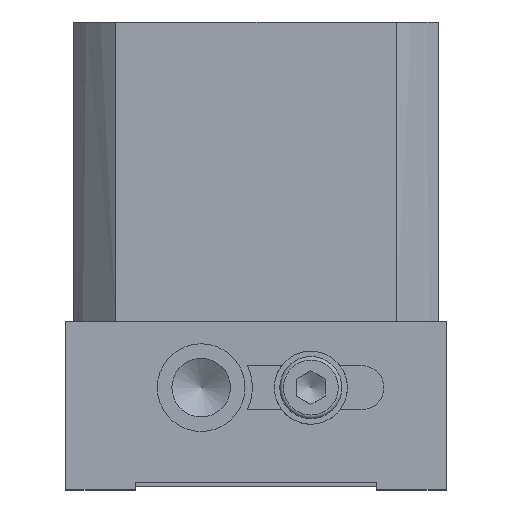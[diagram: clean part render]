
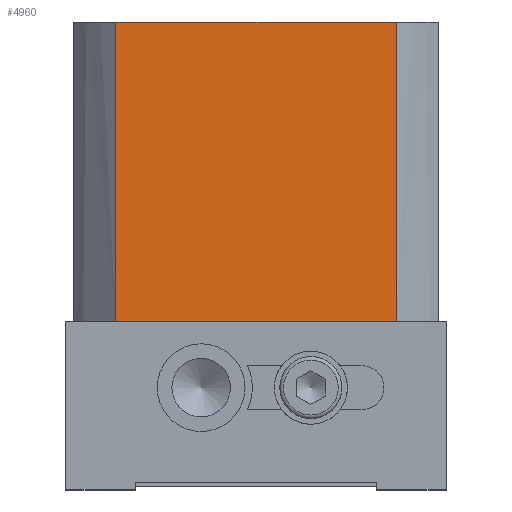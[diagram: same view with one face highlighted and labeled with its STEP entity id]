
A CAD part, left-side view. The second image highlights one B-rep face of the part: STEP entity #4960.
In plain terms, the highlighted planar face has unit normal (-1, 0, 0).
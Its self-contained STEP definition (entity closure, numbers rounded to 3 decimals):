
#3871=CARTESIAN_POINT('',(-25.,44.164,-41.));
#3872=VERTEX_POINT('',#3871);
#3937=CARTESIAN_POINT('',(-25.,5.836,-41.0));
#3938=VERTEX_POINT('',#3937);
#4913=CARTESIAN_POINT('',(-25.,44.164,-41.));
#4914=DIRECTION('',(0.0,-1.0,0.0));
#4915=VECTOR('',#4914,38.328);
#4916=LINE('',#4913,#4915);
#4917=EDGE_CURVE('',#3872,#3938,#4916,.T.);
#4930=CARTESIAN_POINT('',(-25.,44.164,0.0));
#4931=DIRECTION('',(-1.0,0.0,0.0));
#4932=DIRECTION('',(0.0,0.0,1.0));
#4933=AXIS2_PLACEMENT_3D('',#4930,#4931,#4932);
#4934=PLANE('',#4933);
#4935=ORIENTED_EDGE('',*,*,#4917,.T.);
#4936=CARTESIAN_POINT('',(-25.,5.836,0.0));
#4937=VERTEX_POINT('',#4936);
#4938=CARTESIAN_POINT('',(-25.,5.836,0.0));
#4939=DIRECTION('',(0.0,0.0,-1.0));
#4940=VECTOR('',#4939,41.0);
#4941=LINE('',#4938,#4940);
#4942=EDGE_CURVE('',#4937,#3938,#4941,.T.);
#4943=ORIENTED_EDGE('',*,*,#4942,.F.);
#4944=CARTESIAN_POINT('',(-25.,44.164,0.0));
#4945=VERTEX_POINT('',#4944);
#4946=CARTESIAN_POINT('',(-25.,44.164,0.0));
#4947=DIRECTION('',(0.0,-1.0,0.0));
#4948=VECTOR('',#4947,38.328);
#4949=LINE('',#4946,#4948);
#4950=EDGE_CURVE('',#4945,#4937,#4949,.T.);
#4951=ORIENTED_EDGE('',*,*,#4950,.F.);
#4952=CARTESIAN_POINT('',(-25.,44.164,0.0));
#4953=DIRECTION('',(0.0,0.0,-1.0));
#4954=VECTOR('',#4953,41.);
#4955=LINE('',#4952,#4954);
#4956=EDGE_CURVE('',#4945,#3872,#4955,.T.);
#4957=ORIENTED_EDGE('',*,*,#4956,.T.);
#4958=EDGE_LOOP('',(#4935,#4943,#4951,#4957));
#4959=FACE_OUTER_BOUND('',#4958,.T.);
#4960=ADVANCED_FACE('',(#4959),#4934,.T.);
